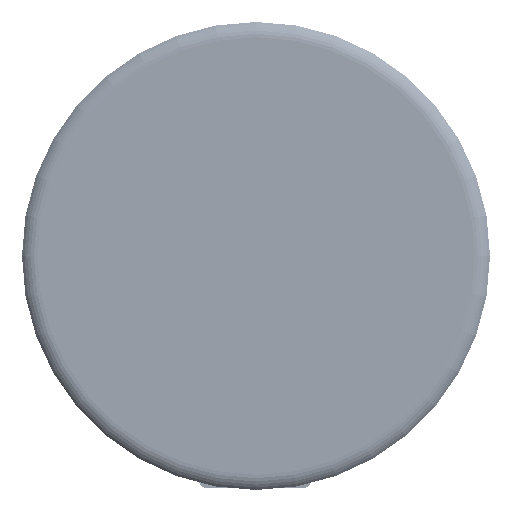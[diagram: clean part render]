
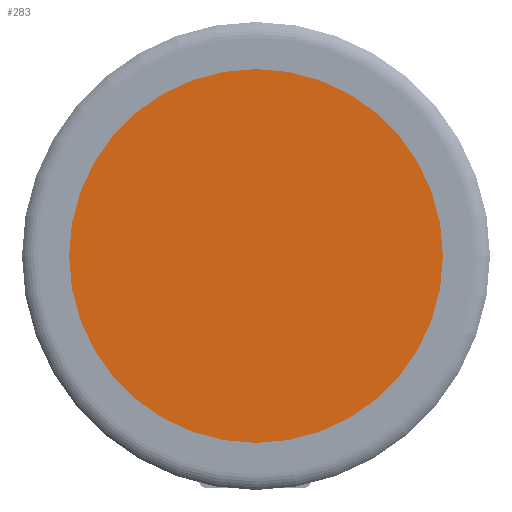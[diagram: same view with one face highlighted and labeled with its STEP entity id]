
A CAD part, top view. The second image highlights one B-rep face of the part: STEP entity #283.
In plain terms, the highlighted planar face has unit normal (0, 0, 1).
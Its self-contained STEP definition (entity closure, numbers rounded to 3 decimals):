
#126=CARTESIAN_POINT('',(0.,0.,1.08));
#127=DIRECTION('',(0.,0.,1.));
#128=DIRECTION('',(1.,0.,0.));
#129=AXIS2_PLACEMENT_3D('',#126,#127,#128);
#134=CARTESIAN_POINT('',(0.,0.,1.08));
#135=DIRECTION('',(0.,0.,1.));
#136=DIRECTION('',(-1.,0.,0.));
#137=AXIS2_PLACEMENT_3D('',#134,#135,#136);
#154=CARTESIAN_POINT('',(18.375,0.,1.08));
#155=CARTESIAN_POINT('',(-18.375,0.,1.08));
#156=VERTEX_POINT('',#154);
#157=VERTEX_POINT('',#155);
#274=CARTESIAN_POINT('',(0.,0.,1.08));
#275=DIRECTION('',(0.,0.,1.));
#276=DIRECTION('',(1.,0.,0.));
#277=AXIS2_PLACEMENT_3D('',#274,#275,#276);
#278=PLANE('',#277);
#279=ORIENTED_EDGE('',*,*,#254,.F.);
#280=ORIENTED_EDGE('',*,*,#268,.F.);
#281=EDGE_LOOP('',(#279,#280));
#282=FACE_OUTER_BOUND('',#281,.F.);
#283=ADVANCED_FACE('',(#282),#278,.T.);
#130=CIRCLE('',#129,18.375);
#138=CIRCLE('',#137,18.375);
#254=EDGE_CURVE('',#156,#157,#130,.T.);
#268=EDGE_CURVE('',#157,#156,#138,.T.);
